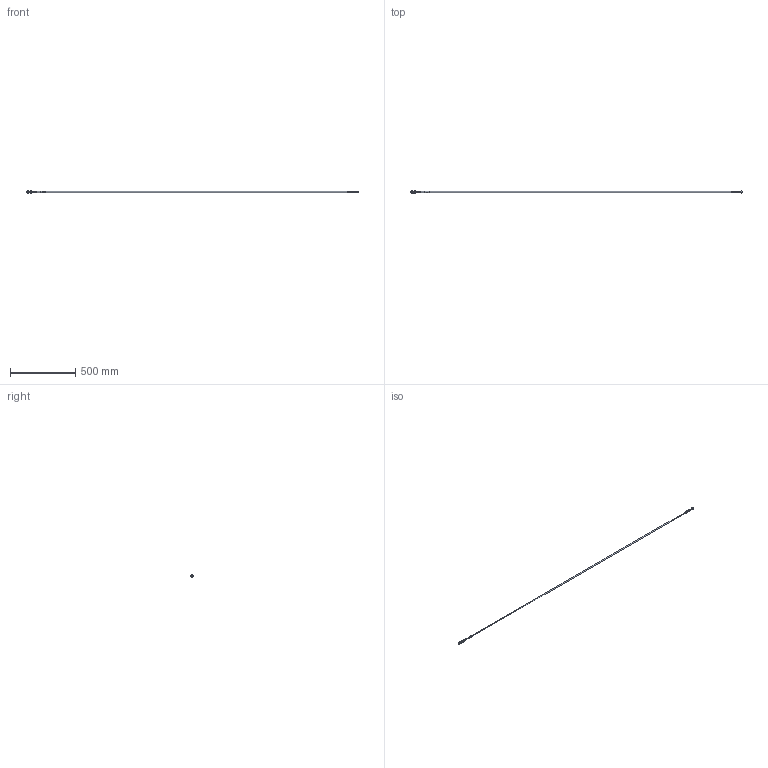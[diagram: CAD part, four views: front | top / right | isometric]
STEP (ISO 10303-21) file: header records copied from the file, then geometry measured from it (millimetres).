
FILE_DESCRIPTION(/* description */ ('VX1311H Serial2 Pigtail B2500A6E43D'),/* implementation_level */ '2;1');
FILE_NAME(/* name */ 'C:\Users\TeamCenterSystem\Documents\Inventor\WIR_000192_CUST_iam.STP',/* time_stamp */ '2023-04-26T10:20:09+02:00',/* author */ ('virkgo'),/* organization */ (''),/* preprocessor_version */ 'ST-DEVELOPER v17.2',/* originating_system */ 'Autodesk Inventor 2019',/* authorisation */ '');
FILE_SCHEMA (('AUTOMOTIVE_DESIGN { 1 0 10303 214 3 1 1 }'));
Length unit declared in the file: millimetre
Products named in the file (14): WIR_000192_CUST; WIR_000192; WIR_001376; CMP_002553; CMP_002552; CMP_002110; CMP_002545; CMP_002546; CMP_002104; CMP_002105; CMP_002550; LBL_001344; CMP_002720; WIR_000192_SUB1
Assembly tree (27 placements, depth 3):
  WIR_000192_CUST
    WIR_000192
      WIR_001376
      CMP_002553
      CMP_002552
      CMP_002110
      CMP_002545
      CMP_002546
      CMP_002104
      CMP_002105  x15
      CMP_002550
      LBL_001344
      CMP_002720
      WIR_000192_SUB1
Bounding box: 2549 x 18 x 17.73 mm (x, y, z)
Volume: 126718.1 mm3; surface area: 84696.6 mm2
Topology: 85 solids, 85 shells, 4180 faces, 11328 edges, 7433 vertices
Faces by surface type: plane 2931, cylinder 740, bspline 305, cone 135, torus 55, sphere 14
Full cylindrical faces by diameter (mm): 0.249 x1, 0.296 x1, 0.321 x15, 0.44 x2, 0.45 x14, 0.5 x14, 0.52 x14, 0.8 x14, 0.85 x1, 0.9 x14, 0.94 x14, 1.02 x14, 1.2 x1, 5.9 x2, 6 x1, 6.1 x1, 6.4 x2, 6.7 x1, 6.9 x1, 7 x1, 7.35 x1, 7.4 x1, 7.65 x1, 7.7 x3, 7.95 x1, 7.99 x1, 8 x1, 8.03 x1, 8.1 x1, 8.2 x1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
Entity records: 106274 total; most frequent: CARTESIAN_POINT 37717, ORIENTED_EDGE 14088, DIRECTION 12930, EDGE_CURVE 7044, VERTEX_POINT 4689, AXIS2_PLACEMENT_3D 4399, LINE 4132, VECTOR 4132
